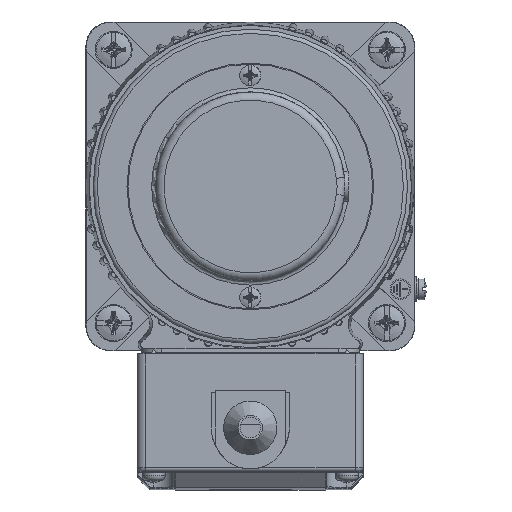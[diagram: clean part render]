
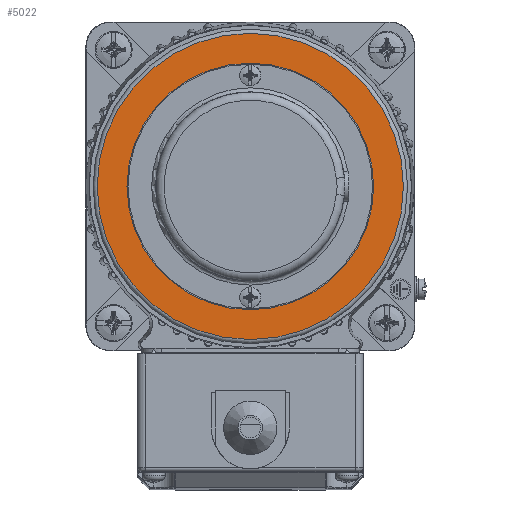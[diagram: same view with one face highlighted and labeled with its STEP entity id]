
A CAD part, left-side view. The second image highlights one B-rep face of the part: STEP entity #5022.
In plain terms, the highlighted planar face has unit normal (-1, 0, 0).
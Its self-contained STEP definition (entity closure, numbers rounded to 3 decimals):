
#3990=FACE_BOUND('',#8740,.T.);
#3991=FACE_BOUND('',#8741,.T.);
#5022=ADVANCED_FACE('',(#3990,#3991),#6439,.F.);
#6439=PLANE('',#27688);
#8740=EDGE_LOOP('',(#13055));
#8741=EDGE_LOOP('',(#13056));
#13055=ORIENTED_EDGE('',*,*,#22859,.F.);
#13056=ORIENTED_EDGE('',*,*,#22841,.T.);
#19991=VERTEX_POINT('',#45757);
#20009=VERTEX_POINT('',#45798);
#22841=EDGE_CURVE('',#19991,#19991,#26345,.T.);
#22859=EDGE_CURVE('',#20009,#20009,#26347,.T.);
#26345=CIRCLE('',#27680,37.25);
#26347=CIRCLE('',#27687,30.);
#27680=AXIS2_PLACEMENT_3D('',#45756,#30645,#30646);
#27687=AXIS2_PLACEMENT_3D('',#45797,#30675,#30676);
#27688=AXIS2_PLACEMENT_3D('',#45799,#30677,#30678);
#30645=DIRECTION('',(-1.,0.,0.));
#30646=DIRECTION('',(0.,0.,-1.));
#30675=DIRECTION('',(-1.,0.,0.));
#30676=DIRECTION('',(0.,0.,1.));
#30677=DIRECTION('',(1.,0.,0.));
#30678=DIRECTION('',(0.,0.,-1.));
#45756=CARTESIAN_POINT('',(-86.,40.,40.));
#45757=CARTESIAN_POINT('',(-86.,40.,2.75));
#45797=CARTESIAN_POINT('',(-86.,40.,40.));
#45798=CARTESIAN_POINT('',(-86.,40.,70.));
#45799=CARTESIAN_POINT('',(-86.,40.,78.25));
